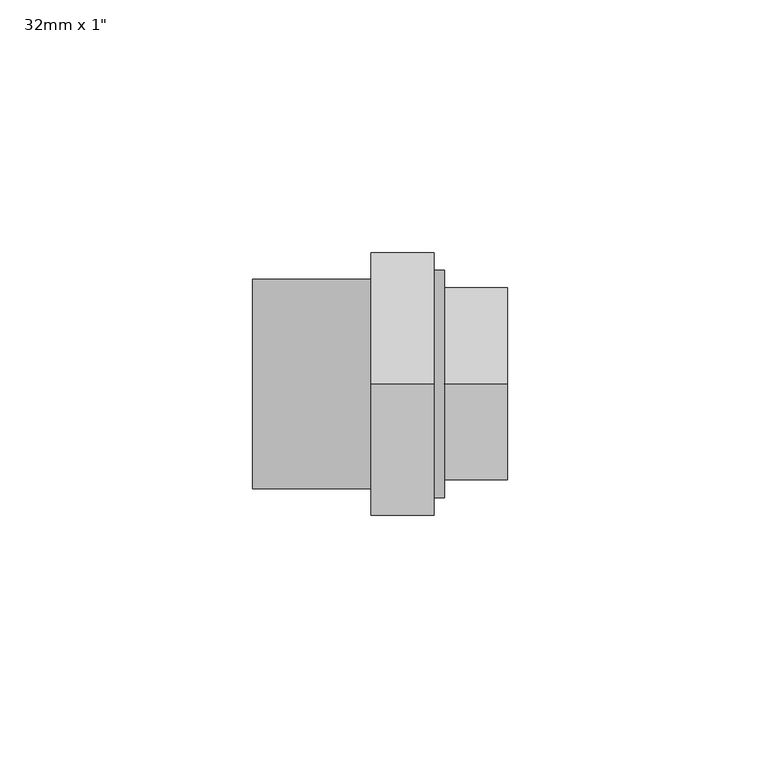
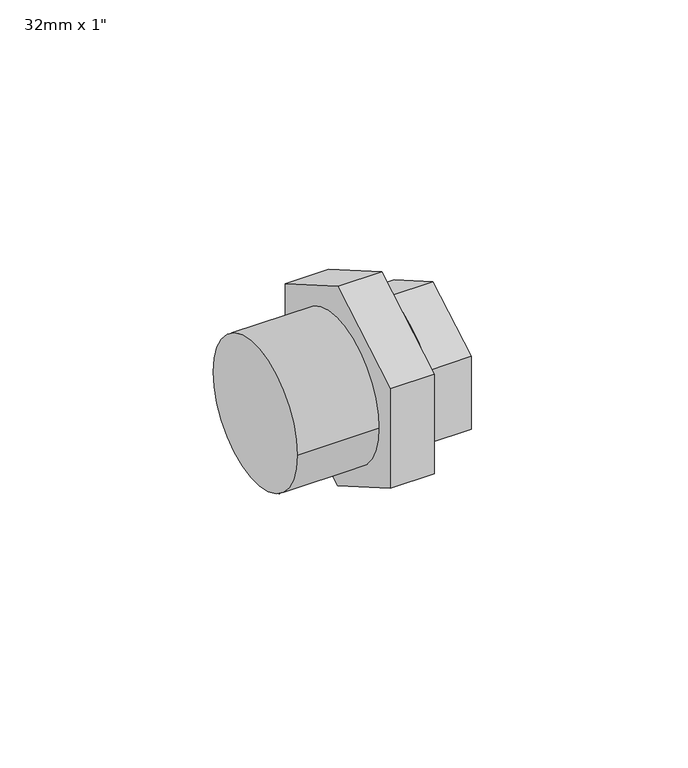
"""IFC4 building model written with IfcOpenShell, lengths in millimetres: pipe fitting geometry."""

from ifc_helpers import new_model, si_unit, point, frame, origin, origin_2d, place, context, project, spatial, circle_curve, trimmed, segment, composite_curve, outline, extrude, source, transform, mapped, element, save
from ifc_brep_helpers import plane_surface, cylinder_surface, advanced_brep


def pipe_fitting_64368580(model_context):
    return source(origin(), model_context, "Body", "SolidModel", [
        advanced_brep(
        [(38.75, 0.0, 21.9393102), (38.75, -19.0, 10.9696551), (38.75, -19.0, -10.9696551), (38.75, 0.0, -21.9393102), (38.75, 19.0, -10.9696551), (38.75, 19.0, 10.9696551), (26.25, 19.0, 10.9696551), (26.25, 0.0, 21.9393102), (26.25, 19.0, -10.9696551), (26.25, 0.0, -21.9393102), (26.25, -19.0, -10.9696551), (26.25, -19.0, 10.9696551), (26.25, -22.5, 0.0), (26.25, 22.5, 0.0), (24.25, 22.5, 0.0), (24.25, -22.5, 0.0), (11.75, 0.0, 30.022214), (11.75, 26.0, 15.011107), (11.75, 26.0, -15.011107), (11.75, 0.0, -30.022214), (11.75, -26.0, -15.011107), (11.75, -26.0, 15.011107), (24.25, 0.0, 30.022214), (24.25, -26.0, 15.011107), (24.25, -26.0, -15.011107), (24.25, 0.0, -30.022214), (24.25, 26.0, -15.011107), (24.25, 26.0, 15.011107)],
        [
            (0, 1),
            (1, 2),
            (2, 3),
            (3, 4),
            (4, 5),
            (5, 0),
            (5, 6),
            (6, 7),
            (7, 0),
            (4, 8),
            (8, 6),
            (3, 9),
            (9, 8),
            (2, 10),
            (10, 9),
            (1, 11),
            (11, 10),
            (7, 11),
            (12, 13, circle_curve(frame((26.25, 0.0, 0.0), z_axis=(1.0, 0.0, 0.0), x_axis=(0.0, 1.0, 0.0)), 22.5)),
            (13, 12, circle_curve(frame((26.25, 0.0, 0.0), z_axis=(1.0, 0.0, 0.0), x_axis=(0.0, 1.0, 0.0)), 22.5)),
            (13, 14),
            (14, 15, circle_curve(frame((24.25, 0.0, 0.0), z_axis=(1.0, 0.0, 0.0), x_axis=(0.0, 1.0, 0.0)), 22.5)),
            (15, 12),
            (15, 14, circle_curve(frame((24.25, 0.0, 0.0), z_axis=(1.0, 0.0, 0.0), x_axis=(0.0, 1.0, 0.0)), 22.5)),
            (16, 17),
            (17, 18),
            (18, 19),
            (19, 20),
            (20, 21),
            (21, 16),
            (22, 23),
            (23, 24),
            (24, 25),
            (25, 26),
            (26, 27),
            (27, 22),
            (16, 22),
            (27, 17),
            (26, 18),
            (25, 19),
            (24, 20),
            (23, 21),
        ],
        [
            plane_surface(frame((38.75, 0.0, 0.0), z_axis=(1.0, 0.0, 0.0), x_axis=(0.0, 0.0, 1.0))),
            plane_surface(frame((26.25, 0.0, 21.9393102), z_axis=(0.0, 0.49999999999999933, 0.8660254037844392), x_axis=(1.0, 0.0, 0.0))),
            plane_surface(frame((26.25, 19.0, 10.9696551), z_axis=(0.0, 1.0, 0.0), x_axis=(1.0, 0.0, 0.0))),
            plane_surface(frame((26.25, 19.0, -10.9696551), z_axis=(0.0, 0.5000000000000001, -0.8660254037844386), x_axis=(1.0, 0.0, 0.0))),
            plane_surface(frame((26.25, 0.0, -21.9393102), z_axis=(0.0, -0.4999999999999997, -0.8660254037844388), x_axis=(1.0, 0.0, 0.0))),
            plane_surface(frame((26.25, -19.0, -10.9696551), z_axis=(0.0, -1.0, 0.0), x_axis=(1.0, 0.0, 0.0))),
            plane_surface(frame((26.25, -19.0, 10.9696551), z_axis=(0.0, -0.5000000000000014, 0.8660254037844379), x_axis=(1.0, 0.0, 0.0))),
            plane_surface(frame((26.25, 0.0, 0.0), z_axis=(1.0, 0.0, 0.0), x_axis=(0.0, 0.0, 1.0))),
            cylinder_surface(frame((24.25, 0.0, 0.0), z_axis=(-1.0, 0.0, 0.0), x_axis=(0.0, 1.0, 0.0)), 22.5),
            plane_surface(frame((11.75, 0.0, 0.0), z_axis=(-1.0, 0.0, 0.0), x_axis=(0.0, 0.0, 1.0))),
            plane_surface(frame((24.25, 0.0, 0.0), z_axis=(1.0, 0.0, 0.0), x_axis=(0.0, 0.0, 1.0))),
            plane_surface(frame((11.75, 0.0, 30.022214), z_axis=(0.0, 0.4999999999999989, 0.8660254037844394), x_axis=(1.0, 0.0, 0.0))),
            plane_surface(frame((11.75, 26.0, 15.011107), z_axis=(0.0, 1.0, 0.0), x_axis=(1.0, 0.0, 0.0))),
            plane_surface(frame((11.75, 26.0, -15.011107), z_axis=(0.0, 0.4999999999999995, -0.866025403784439), x_axis=(1.0, 0.0, 0.0))),
            plane_surface(frame((11.75, 0.0, -30.022214), z_axis=(0.0, -0.4999999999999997, -0.8660254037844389), x_axis=(1.0, 0.0, 0.0))),
            plane_surface(frame((11.75, -26.0, -15.011107), z_axis=(0.0, -1.0, 0.0), x_axis=(1.0, 0.0, 0.0))),
            plane_surface(frame((11.75, -26.0, 15.011107), z_axis=(0.0, -0.5000000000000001, 0.8660254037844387), x_axis=(1.0, 0.0, 0.0))),
        ],
        [
            (0, [[1, 2, 3, 4, 5, 6]]),
            (1, [[-6, 7, 8, 9]]),
            (2, [[-5, 10, 11, -7]]),
            (3, [[-4, 12, 13, -10]]),
            (4, [[-3, 14, 15, -12]]),
            (5, [[-2, 16, 17, -14]]),
            (6, [[-1, -9, 18, -16]]),
            (7, [[19, 20], [-8, -11, -13, -15, -17, -18]]),
            (8, [[-20, 21, 22, 23]]),
            (8, [[-19, -23, 24, -21]]),
            (9, [[25, 26, 27, 28, 29, 30]]),
            (10, [[31, 32, 33, 34, 35, 36], [-22, -24]]),
            (11, [[-25, 37, -36, 38]]),
            (12, [[-26, -38, -35, 39]]),
            (13, [[-27, -39, -34, 40]]),
            (14, [[-28, -40, -33, 41]]),
            (15, [[-29, -41, -32, 42]]),
            (16, [[-30, -42, -31, -37]]),
        ],
    ),
        extrude(outline(composite_curve([segment(trimmed(circle_curve(origin_2d(), 20.75), [point((-20.75, 0.0))], [point((20.75, 0.0))], False, "CARTESIAN"), True, "CONTINUOUS"), segment(trimmed(circle_curve(origin_2d(), 20.75), [point((20.75, 0.0))], [point((-20.75, 0.0))], False, "CARTESIAN"), True, "CONTINUOUS")], self_intersect=False)), frame((-11.75, 0.0, 0.0), z_axis=(1.0, 0.0, 0.0), x_axis=(0.0, 1.0, 0.0)), (0.0, 0.0, 1.0), 23.5),
    ])


if __name__ == "__main__":
    model = new_model("IFC4")
    model_context = context("Model", 3, world=origin())
    ifc_project = project(units=[si_unit("LENGTHUNIT", "METRE", prefix="MILLI")], contexts=[model_context])
    site = spatial("IfcSite", under=ifc_project)
    building = spatial("IfcBuilding", under=site)
    placement = place(None, origin())
    pipe_fitting_shape = pipe_fitting_64368580(model_context)
    element("IfcPipeFitting", 1, ObjectType="PipeFitting_HTA_CPVC_3PieceUnions_(CPVC-Brass) : 32mm x 1\"", at=placement, inside=building, context=model_context, shape_type="MappedRepresentation", body=[
        mapped(pipe_fitting_shape, transform((0.0, 0.0, 0.0), x_axis=(1.0, 0.0, 0.0), y_axis=(0.0, 1.0, 0.0), z_axis=(0.0, 0.0, 1.0))),
    ])
    save(model, "model.ifc")
